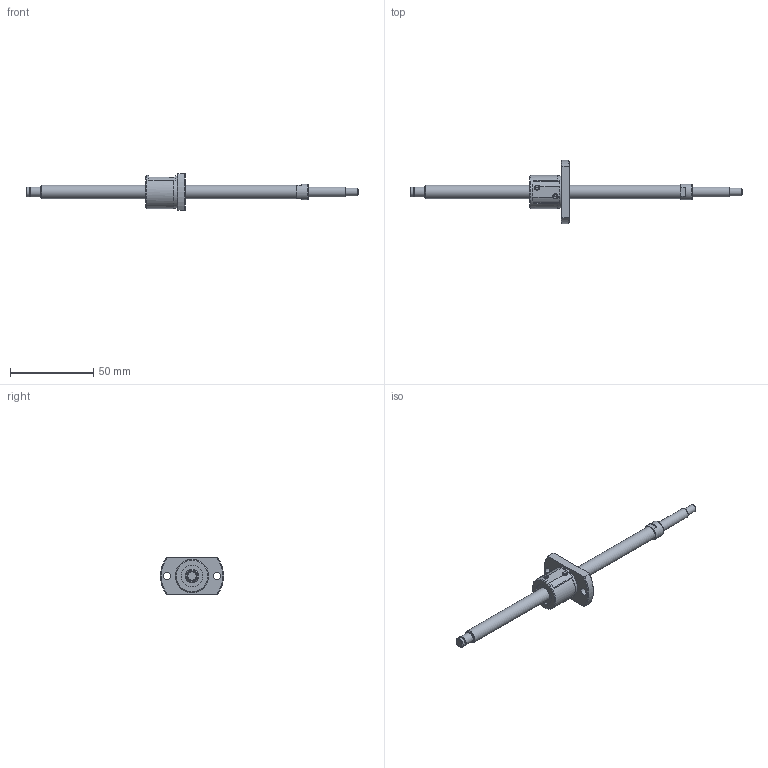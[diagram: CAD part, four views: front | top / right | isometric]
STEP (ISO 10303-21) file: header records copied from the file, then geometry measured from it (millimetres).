
FILE_DESCRIPTION(/* description */ ('STEP AP214'),/* implementation_level */ '2;1');
FILE_NAME(/* name */ 'SG0802-150R200C3B0X(63)',/* time_stamp */ '2026-07-21T16:45:47+02:00',/* author */ ('License CC BY-ND 4.0'),/* organization */ ('CADENAS'),/* preprocessor_version */ 'ST-DEVELOPER v20',/* originating_system */ 'PARTsolutions',/* authorisation */ ' ');
FILE_SCHEMA (('AUTOMOTIVE_DESIGN {1 0 10303 214 3 1 1}'));
Length unit declared in the file: millimetre
Products named in the file (3): SG0802-150R200C3B0X(63); SG0802-150R200C3B_shaft; SG0802_nut
Assembly tree (2 placements, depth 2):
  SG0802-150R200C3B0X(63)
    SG0802-150R200C3B_shaft
    SG0802_nut
Bounding box: 200 x 38 x 22 mm (x, y, z)
Volume: 17396.9 mm3; surface area: 8818 mm2
Topology: 2 solids, 2 shells, 79 faces, 187 edges, 122 vertices
Faces by surface type: plane 38, cylinder 26, cone 14, torus 1
Full cylindrical faces by diameter (mm): 4.5 x3, 5.7 x1, 6 x3, 8 x2, 9.5 x1, 13 x2, 19.7 x1, 20 x1
Entity records: 2197 total; most frequent: CARTESIAN_POINT 408, DIRECTION 374, ORIENTED_EDGE 306, AXIS2_PLACEMENT_3D 157, EDGE_CURVE 153, EDGE_LOOP 120, FACE_BOUND 120, VERTEX_POINT 113
